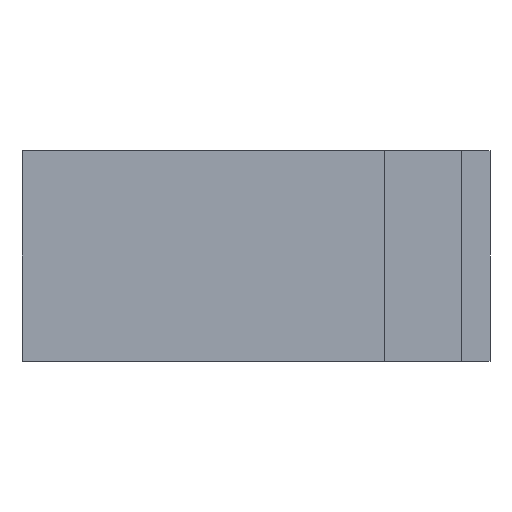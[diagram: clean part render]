
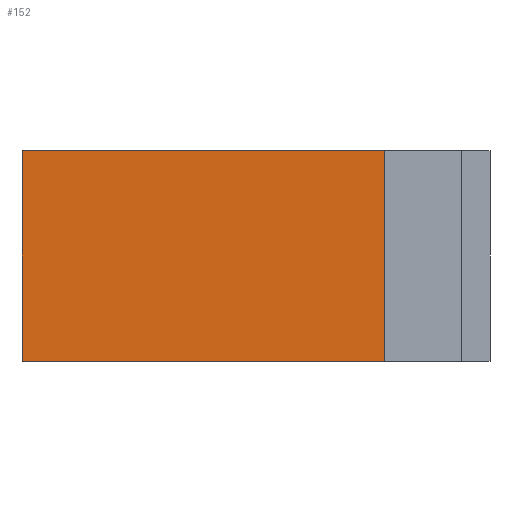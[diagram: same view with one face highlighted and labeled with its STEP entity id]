
A CAD part, left-side view. The second image highlights one B-rep face of the part: STEP entity #152.
In plain terms, the highlighted planar face has unit normal (-1, 0, 0).
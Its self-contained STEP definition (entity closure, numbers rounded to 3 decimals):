
#152=ADVANCED_FACE('',(#681),#683,.T.);
#681=FACE_BOUND('',#682,.T.);
#682=EDGE_LOOP('',(#1143,#1144,#1145,#1146));
#683=PLANE('',#684);
#684=AXIS2_PLACEMENT_3D('',#685,#686,#687);
#685=CARTESIAN_POINT('',(-28.,23.,0.));
#686=DIRECTION('',(-1.,0.,0.));
#687=DIRECTION('',(0.,-1.,0.));
#1143=ORIENTED_EDGE('',*,*,#1351,.T.);
#1144=ORIENTED_EDGE('',*,*,#1352,.T.);
#1145=ORIENTED_EDGE('',*,*,#1310,.F.);
#1146=ORIENTED_EDGE('',*,*,#1349,.F.);
#1310=EDGE_CURVE('',#1431,#1433,#1434,.T.);
#1349=EDGE_CURVE('',#1500,#1431,#1502,.T.);
#1351=EDGE_CURVE('',#1500,#1505,#1506,.T.);
#1352=EDGE_CURVE('',#1505,#1433,#1507,.T.);
#1431=VERTEX_POINT('',#1647);
#1433=VERTEX_POINT('',#1651);
#1434=LINE('',#1652,#1653);
#1500=VERTEX_POINT('',#1806);
#1502=LINE('',#1810,#1811);
#1505=VERTEX_POINT('',#1818);
#1506=LINE('',#1819,#1820);
#1507=LINE('',#1822,#1823);
#1647=CARTESIAN_POINT('',(-28.,23.,22.));
#1651=CARTESIAN_POINT('',(-28.,-15.,22.));
#1652=CARTESIAN_POINT('',(-28.,23.,22.));
#1653=VECTOR('',#1654,1.);
#1654=DIRECTION('',(0.,-1.,0.));
#1806=CARTESIAN_POINT('',(-28.,23.,0.));
#1810=CARTESIAN_POINT('',(-28.,23.,0.));
#1811=VECTOR('',#1812,1.);
#1812=DIRECTION('',(0.,0.,1.));
#1818=CARTESIAN_POINT('',(-28.,-15.,0.));
#1819=CARTESIAN_POINT('',(-28.,23.,0.));
#1820=VECTOR('',#1821,1.);
#1821=DIRECTION('',(0.,-1.,0.));
#1822=CARTESIAN_POINT('',(-28.,-15.,0.));
#1823=VECTOR('',#1824,1.);
#1824=DIRECTION('',(0.,0.,1.));
